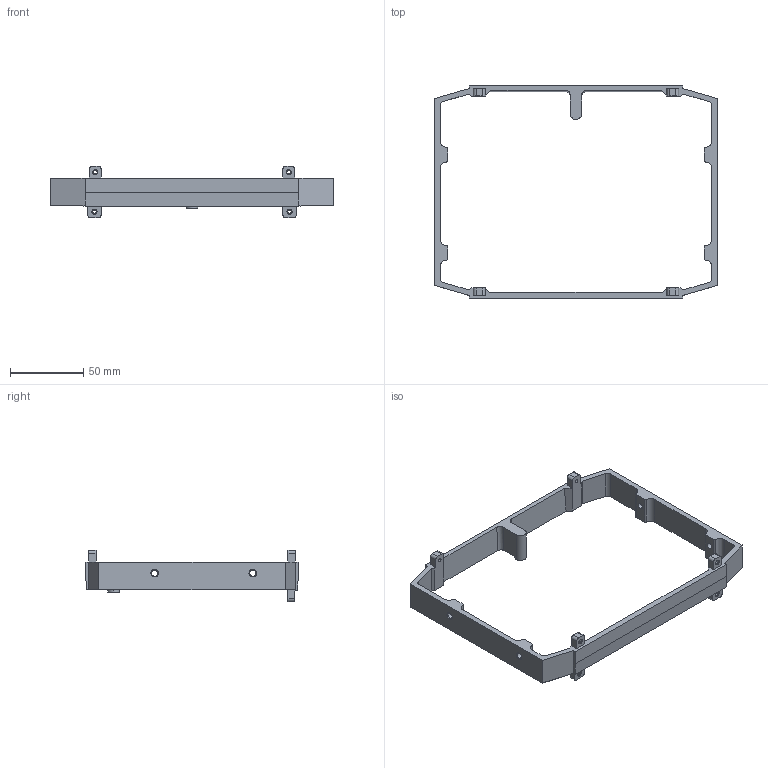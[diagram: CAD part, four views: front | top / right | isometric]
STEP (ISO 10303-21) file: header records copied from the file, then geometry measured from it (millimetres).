
FILE_DESCRIPTION((''),'2;1');
FILE_NAME('ST-S_1_1_1','2025-07-12T11:10:48',('Administrator'),(''),'CREO PARAMETRIC BY PTC INC, 2022073','CREO PARAMETRIC BY PTC INC, 2022073','');
FILE_SCHEMA(('CONFIG_CONTROL_DESIGN'));
Length unit declared in the file: millimetre
Products named in the file (1): ST-S_1_1_1
Bounding box: 193 x 145 x 35.1 mm (x, y, z)
Volume: 57199.4 mm3; surface area: 33069.1 mm2
Topology: 1 solids, 1 shells, 166 faces, 464 edges, 300 vertices
Faces by surface type: plane 84, cylinder 60, cone 22
Entity records: 5475 total; most frequent: CARTESIAN_POINT 1031, ORIENTED_EDGE 928, DIRECTION 920, EDGE_CURVE 464, VECTOR 308, LINE 308, AXIS2_PLACEMENT_3D 306, VERTEX_POINT 300
